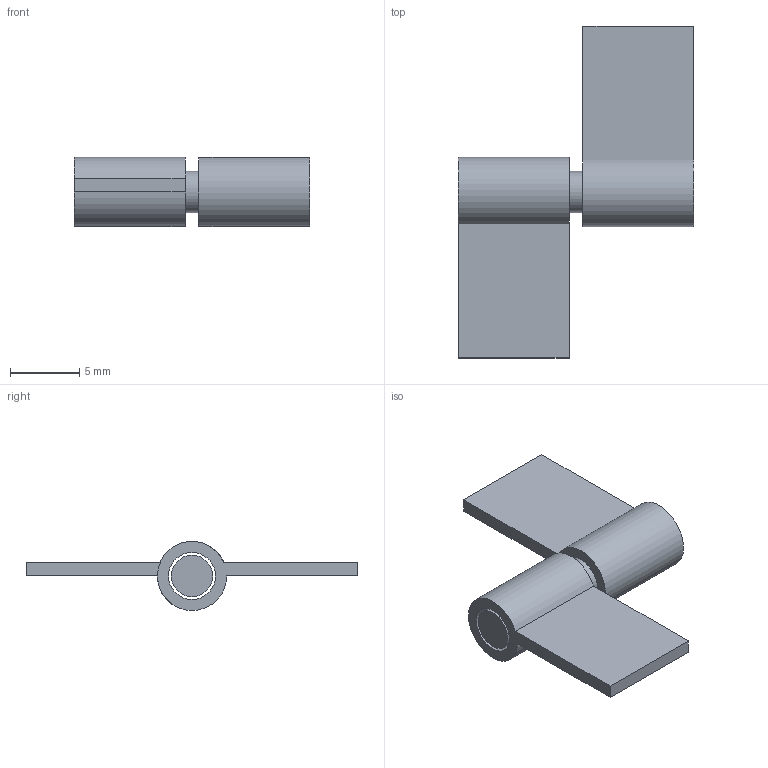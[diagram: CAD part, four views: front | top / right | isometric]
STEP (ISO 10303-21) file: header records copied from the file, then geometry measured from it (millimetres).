
FILE_DESCRIPTION(('Open CASCADE Model'),'2;1');
FILE_NAME('Open CASCADE Shape Model','2026-11-25T11:42:45',('Author'),( 'Open CASCADE'),'Open CASCADE STEP processor 8.0','Open CASCADE 8.0' ,'Unknown');
FILE_SCHEMA(('AP242_MANAGED_MODEL_BASED_3D_ENGINEERING_MIM_LF {1 0 10303 442 1 1 4 }' ));
Length unit declared in the file: millimetre
Products named in the file (3): Fixed leaf; Moving leaf; Hinge pin
Bounding box: 17 x 24 x 5 mm (x, y, z)
Volume: 442.2 mm3; surface area: 984 mm2
Topology: 3 solids, 3 shells, 17 faces, 33 edges, 22 vertices
Faces by surface type: plane 12, cylinder 5
Full cylindrical faces by diameter (mm): 3 x1, 3.4 x2
Entity records: 922 total; most frequent: CARTESIAN_POINT 151, DIRECTION 138, LINE 73, VECTOR 73, ORIENTED_EDGE 66, PCURVE 66, DEFINITIONAL_REPRESENTATION 66, EDGE_CURVE 33
